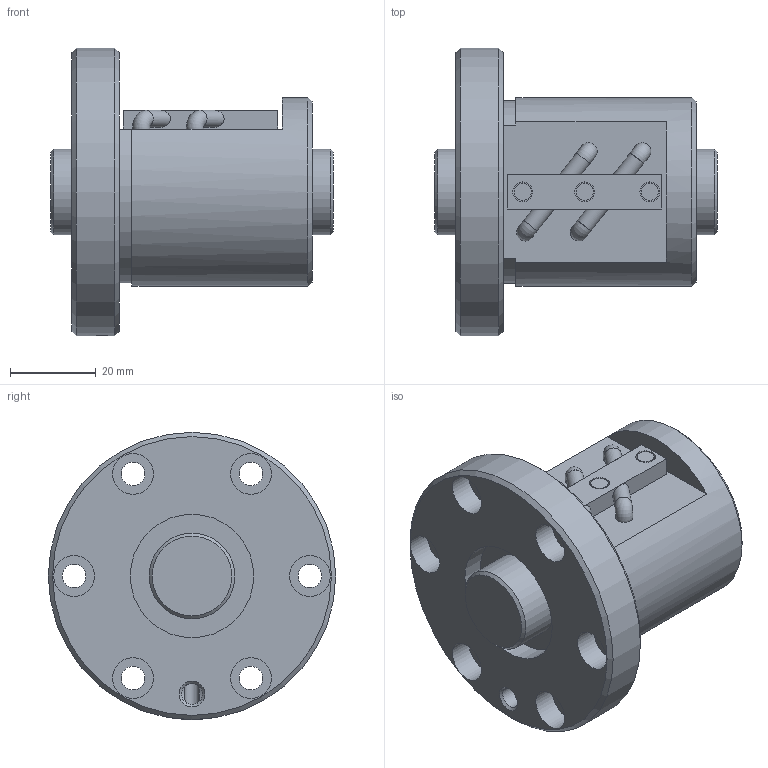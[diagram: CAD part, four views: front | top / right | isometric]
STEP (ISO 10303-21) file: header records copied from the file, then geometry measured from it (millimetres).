
FILE_DESCRIPTION(/* description */ ('STEP AP203'),/* implementation_level */ '2;1');
FILE_NAME(/* name */ 'BIF2005V-5RRG0+66LC0_000',/* time_stamp */ '2024-07-15T08:17:00+02:00',/* author */ ('License CC BY-ND 4.0'),/* organization */ ('CADENAS'),/* preprocessor_version */ 'ST-DEVELOPER v19.3',/* originating_system */ 'PARTsolutions',/* authorisation */ ' ');
FILE_SCHEMA (('CONFIG_CONTROL_DESIGN'));
Length unit declared in the file: millimetre
Products named in the file (3): BIF2005V-5RRG0+66LC0_000; BIF2005V-5RR000 Shaft; BIF2005V-5RR Nut
Assembly tree (2 placements, depth 2):
  BIF2005V-5RRG0+66LC0_000
    BIF2005V-5RR000 Shaft
    BIF2005V-5RR Nut
Bounding box: 66 x 67 x 67 mm (x, y, z)
Volume: 98336.4 mm3; surface area: 25865.3 mm2
Topology: 2 solids, 2 shells, 89 faces, 197 edges, 125 vertices
Faces by surface type: plane 41, cylinder 36, cone 8, torus 4
Full cylindrical faces by diameter (mm): 3.35 x2, 4 x7, 4.6 x3, 4.917 x1, 5.5 x6, 9.5 x6, 20 x2, 28.8 x2, 44 x1, 67 x1
Entity records: 2373 total; most frequent: CARTESIAN_POINT 440, DIRECTION 422, ORIENTED_EDGE 292, AXIS2_PLACEMENT_3D 194, EDGE_LOOP 166, FACE_BOUND 166, EDGE_CURVE 146, VERTEX_POINT 114
